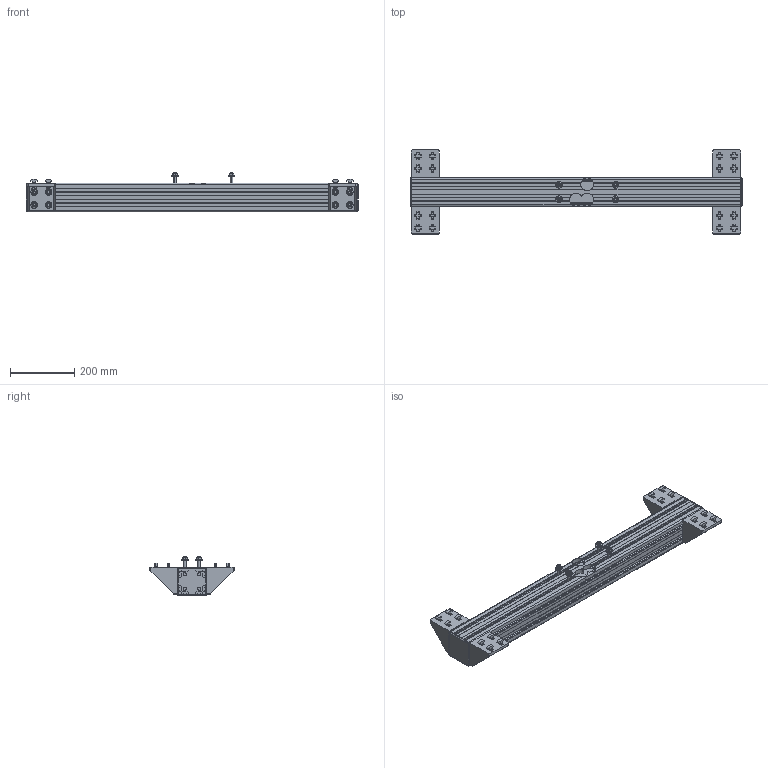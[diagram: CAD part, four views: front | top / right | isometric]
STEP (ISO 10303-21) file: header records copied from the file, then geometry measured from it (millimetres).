
FILE_DESCRIPTION (( 'STEP AP203' ), '1' );
FILE_NAME ('Asutec_75000086.STEP', '2021-11-16T13:03:16', ( '' ), ( '' ), 'SwSTEP 2.0', 'SolidWorks 2020', '' );
FILE_SCHEMA (( 'CONFIG_CONTROL_DESIGN' ));
Length unit declared in the file: millimetre
Products named in the file (1): Asutec_75000086
Bounding box: 1035.5 x 262 x 124 mm (x, y, z)
Volume: 7092856.6 mm3; surface area: 1142435.6 mm2
Topology: 11 solids, 11 shells, 1682 faces, 4588 edges, 2968 vertices
Faces by surface type: plane 1253, cylinder 305, cone 108, sphere 8, bspline 8
Entity records: 55509 total; most frequent: CARTESIAN_POINT 13278, ORIENTED_EDGE 9176, DIRECTION 8222, EDGE_CURVE 4588, VECTOR 3226, LINE 3226, VERTEX_POINT 2968, AXIS2_PLACEMENT_3D 2498
